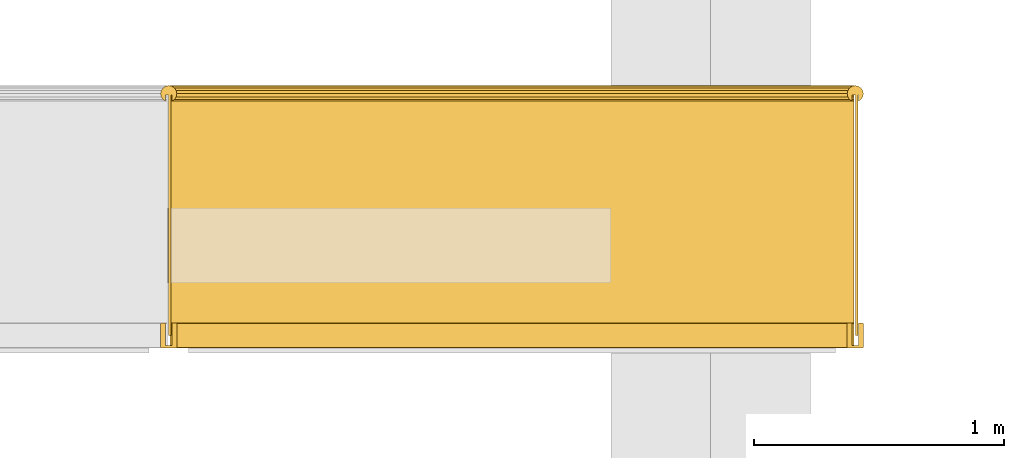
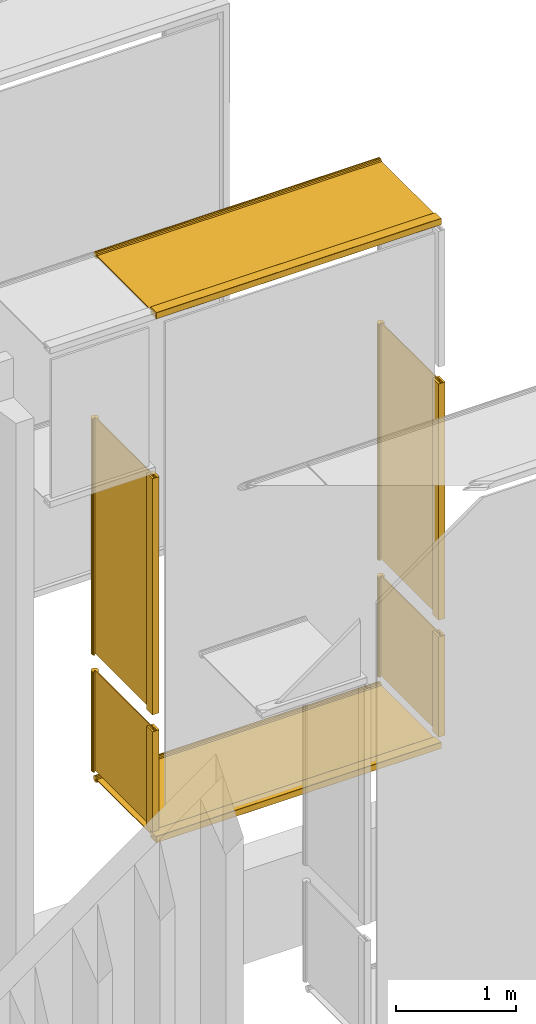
# One storey, part 9 of 15: 6 railings.
"""IFC2X3 building model written with IfcOpenShell, lengths in metres."""

from ifc_helpers import new_model, entity, si_unit, converted_unit, derived_unit, money_unit, direction, frame, origin_with_axes, place, context, subcontext, project, spatial, faceted_brep, material, type_object, element, save


model = new_model("IFC2X3")

# Units and contexts
model_context = context("Model", 3, precision=1e-05, world=origin_with_axes(), true_north=direction((0.0, 1.0)))
body_context = subcontext(model_context, "Body", "Model", "MODEL_VIEW", scale=1.0)
ifc_project = project(units=[si_unit("LENGTHUNIT", "METRE"), si_unit("AREAUNIT", "SQUARE_METRE"), si_unit("VOLUMEUNIT", "CUBIC_METRE"), si_unit("ABSORBEDDOSEUNIT", "GRAY"), si_unit("AMOUNTOFSUBSTANCEUNIT", "MOLE"), si_unit("DOSEEQUIVALENTUNIT", "SIEVERT"), si_unit("ELECTRICCAPACITANCEUNIT", "FARAD"), si_unit("ELECTRICCHARGEUNIT", "COULOMB"), si_unit("ELECTRICCONDUCTANCEUNIT", "SIEMENS"), si_unit("ELECTRICCURRENTUNIT", "AMPERE"), si_unit("ELECTRICRESISTANCEUNIT", "OHM"), si_unit("ELECTRICVOLTAGEUNIT", "VOLT"), si_unit("ENERGYUNIT", "JOULE"), si_unit("FORCEUNIT", "NEWTON"), si_unit("FREQUENCYUNIT", "HERTZ"), si_unit("ILLUMINANCEUNIT", "LUX"), si_unit("INDUCTANCEUNIT", "HENRY"), si_unit("LUMINOUSFLUXUNIT", "LUMEN"), si_unit("LUMINOUSINTENSITYUNIT", "CANDELA"), si_unit("MAGNETICFLUXDENSITYUNIT", "TESLA"), si_unit("MAGNETICFLUXUNIT", "WEBER"), si_unit("MASSUNIT", "GRAM"), converted_unit("PLANEANGLEUNIT", "degree", entity("IfcReal", 0.0174532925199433), si_unit("PLANEANGLEUNIT", "RADIAN"), dimensions=[0, 0, 0, 0, 0, 0, 0]), si_unit("POWERUNIT", "WATT"), si_unit("PRESSUREUNIT", "PASCAL"), si_unit("RADIOACTIVITYUNIT", "BECQUEREL"), si_unit("SOLIDANGLEUNIT", "STERADIAN"), si_unit("THERMODYNAMICTEMPERATUREUNIT", "KELVIN"), si_unit("TIMEUNIT", "SECOND"), derived_unit("ACCELERATIONUNIT", [(si_unit("LENGTHUNIT", "METRE"), 1), (si_unit("TIMEUNIT", "SECOND"), -2)]), derived_unit("ANGULARVELOCITYUNIT", [(converted_unit("PLANEANGLEUNIT", "degree", entity("IfcReal", 0.0174532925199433), si_unit("PLANEANGLEUNIT", "RADIAN"), dimensions=[0, 0, 0, 0, 0, 0, 0]), 1), (si_unit("TIMEUNIT", "SECOND"), -1)]), derived_unit("CURVATUREUNIT", [(converted_unit("PLANEANGLEUNIT", "degree", entity("IfcReal", 0.0174532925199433), si_unit("PLANEANGLEUNIT", "RADIAN"), dimensions=[0, 0, 0, 0, 0, 0, 0]), 1), (si_unit("LENGTHUNIT", "METRE"), -1)]), derived_unit("DYNAMICVISCOSITYUNIT", [(si_unit("PRESSUREUNIT", "PASCAL"), 1), (si_unit("TIMEUNIT", "SECOND"), 1)]), derived_unit("HEATFLUXDENSITYUNIT", [(si_unit("POWERUNIT", "WATT"), 1), (si_unit("LENGTHUNIT", "METRE"), -2)]), derived_unit("HEATINGVALUEUNIT", [(si_unit("ENERGYUNIT", "JOULE"), 1), (si_unit("MASSUNIT", "GRAM"), -1)]), derived_unit("INTEGERCOUNTRATEUNIT", [(si_unit("TIMEUNIT", "SECOND"), -1)]), derived_unit("IONCONCENTRATIONUNIT", [(si_unit("MASSUNIT", "GRAM"), 1), (si_unit("VOLUMEUNIT", "CUBIC_METRE"), -1)]), derived_unit("ISOTHERMALMOISTURECAPACITYUNIT", [(si_unit("VOLUMEUNIT", "CUBIC_METRE"), 1), (si_unit("MASSUNIT", "GRAM"), -1)]), derived_unit("KINEMATICVISCOSITYUNIT", [(si_unit("AREAUNIT", "SQUARE_METRE"), 1), (si_unit("TIMEUNIT", "SECOND"), -1)]), derived_unit("LINEARFORCEUNIT", [(si_unit("FORCEUNIT", "NEWTON"), 1), (si_unit("LENGTHUNIT", "METRE"), -1)]), derived_unit("LINEARMOMENTUNIT", [(si_unit("FORCEUNIT", "NEWTON"), 1), (si_unit("LENGTHUNIT", "METRE"), -1)]), derived_unit("LINEARSTIFFNESSUNIT", [(si_unit("FORCEUNIT", "NEWTON"), 1), (si_unit("LENGTHUNIT", "METRE"), -1)]), derived_unit("LINEARVELOCITYUNIT", [(si_unit("LENGTHUNIT", "METRE"), 1), (si_unit("TIMEUNIT", "SECOND"), -1)]), derived_unit("LUMINOUSINTENSITYDISTRIBUTIONUNIT", [(si_unit("LUMINOUSINTENSITYUNIT", "CANDELA"), 1), (si_unit("LUMINOUSFLUXUNIT", "LUMEN"), -1)]), derived_unit("MASSDENSITYUNIT", [(si_unit("MASSUNIT", "GRAM"), 1), (si_unit("VOLUMEUNIT", "CUBIC_METRE"), -1)]), derived_unit("MASSFLOWRATEUNIT", [(si_unit("MASSUNIT", "GRAM"), 1), (si_unit("TIMEUNIT", "SECOND"), -1)]), derived_unit("MASSPERLENGTHUNIT", [(si_unit("MASSUNIT", "GRAM"), 1), (si_unit("LENGTHUNIT", "METRE"), -1)]), derived_unit("MODULUSOFELASTICITYUNIT", [(si_unit("FORCEUNIT", "NEWTON"), 1), (si_unit("AREAUNIT", "SQUARE_METRE"), -1)]), derived_unit("MODULUSOFLINEARSUBGRADEREACTIONUNIT", [(si_unit("FORCEUNIT", "NEWTON"), 1), (si_unit("LENGTHUNIT", "METRE"), -2)]), derived_unit("MODULUSOFROTATIONALSUBGRADEREACTIONUNIT", [(si_unit("FORCEUNIT", "NEWTON"), 1), (si_unit("LENGTHUNIT", "METRE"), 1)]), derived_unit("MODULUSOFSUBGRADEREACTIONUNIT", [(si_unit("FORCEUNIT", "NEWTON"), 1), (si_unit("VOLUMEUNIT", "CUBIC_METRE"), -1)]), derived_unit("MOISTUREDIFFUSIVITYUNIT", [(si_unit("VOLUMEUNIT", "CUBIC_METRE"), 1), (si_unit("TIMEUNIT", "SECOND"), -1)]), derived_unit("MOLECULARWEIGHTUNIT", [(si_unit("MASSUNIT", "GRAM"), 1), (si_unit("AMOUNTOFSUBSTANCEUNIT", "MOLE"), -1)]), derived_unit("PLANARFORCEUNIT", [(si_unit("FORCEUNIT", "NEWTON"), 1), (si_unit("LENGTHUNIT", "METRE"), -2)]), derived_unit("ROTATIONALFREQUENCYUNIT", [(si_unit("TIMEUNIT", "SECOND"), -1)]), derived_unit("ROTATIONALMASSUNIT", [(si_unit("MASSUNIT", "GRAM"), 1), (si_unit("LENGTHUNIT", "METRE"), 2)]), derived_unit("ROTATIONALSTIFFNESSUNIT", [(si_unit("FORCEUNIT", "NEWTON"), 1), (si_unit("LENGTHUNIT", "METRE"), 1), (converted_unit("PLANEANGLEUNIT", "degree", entity("IfcReal", 0.0174532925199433), si_unit("PLANEANGLEUNIT", "RADIAN"), dimensions=[0, 0, 0, 0, 0, 0, 0]), -1)]), derived_unit("SECTIONAREAINTEGRALUNIT", [(si_unit("LENGTHUNIT", "METRE"), 5)]), derived_unit("SECTIONMODULUSUNIT", [(si_unit("LENGTHUNIT", "METRE"), 3)]), derived_unit("SHEARMODULUSUNIT", [(si_unit("FORCEUNIT", "NEWTON"), 1), (si_unit("AREAUNIT", "SQUARE_METRE"), -1)]), derived_unit("SOUNDPOWERUNIT", [(si_unit("ENERGYUNIT", "JOULE"), 1), (si_unit("TIMEUNIT", "SECOND"), -1)]), derived_unit("SPECIFICHEATCAPACITYUNIT", [(si_unit("FORCEUNIT", "NEWTON"), 1), (si_unit("MASSUNIT", "GRAM"), -1), (si_unit("THERMODYNAMICTEMPERATUREUNIT", "KELVIN"), -1)]), derived_unit("TEMPERATUREGRADIENTUNIT", [(si_unit("THERMODYNAMICTEMPERATUREUNIT", "KELVIN"), 1), (si_unit("LENGTHUNIT", "METRE"), -1)]), derived_unit("THERMALADMITTANCEUNIT", [(si_unit("POWERUNIT", "WATT"), 1), (si_unit("AREAUNIT", "SQUARE_METRE"), -1), (si_unit("THERMODYNAMICTEMPERATUREUNIT", "KELVIN"), -1)]), derived_unit("THERMALCONDUCTANCEUNIT", [(si_unit("POWERUNIT", "WATT"), 1), (si_unit("LENGTHUNIT", "METRE"), -1), (si_unit("THERMODYNAMICTEMPERATUREUNIT", "KELVIN"), -1)]), derived_unit("THERMALEXPANSIONCOEFFICIENTUNIT", [(si_unit("THERMODYNAMICTEMPERATUREUNIT", "KELVIN"), -1)]), derived_unit("THERMALRESISTANCEUNIT", [(si_unit("AREAUNIT", "SQUARE_METRE"), 1), (si_unit("POWERUNIT", "WATT"), -1)]), derived_unit("THERMALTRANSMITTANCEUNIT", [(si_unit("POWERUNIT", "WATT"), 1), (si_unit("AREAUNIT", "SQUARE_METRE"), -1), (si_unit("THERMODYNAMICTEMPERATUREUNIT", "KELVIN"), -1)]), derived_unit("TORQUEUNIT", [(si_unit("FORCEUNIT", "NEWTON"), 1), (si_unit("LENGTHUNIT", "METRE"), 1)]), derived_unit("VAPORPERMEABILITYUNIT", [(si_unit("MASSUNIT", "GRAM"), 1), (si_unit("TIMEUNIT", "SECOND"), -1)]), derived_unit("VOLUMETRICFLOWRATEUNIT", [(si_unit("VOLUMEUNIT", "CUBIC_METRE"), 1), (si_unit("TIMEUNIT", "SECOND"), -1)]), derived_unit("WARPINGCONSTANTUNIT", [(si_unit("LENGTHUNIT", "METRE"), 6)]), derived_unit("WARPINGMOMENTUNIT", [(si_unit("FORCEUNIT", "NEWTON"), 1), (si_unit("LENGTHUNIT", "METRE"), 2)]), money_unit("GBP")], contexts=[model_context])

# Site, building, storey
site_placement = place(None, origin_with_axes())
site = spatial("IfcSite", under=ifc_project, at=site_placement, Name="Site", CompositionType="ELEMENT")
building_placement = place(site_placement, origin_with_axes())
building = spatial("IfcBuilding", under=site, at=building_placement, Name="Building01", CompositionType="ELEMENT")
storey_placement = place(building_placement, origin_with_axes())
storey = spatial("IfcBuildingStorey", under=building, at=storey_placement, Name="GF", CompositionType="ELEMENT", Elevation=0.0)

# Railings
ifc_material = material(Name="A_BSUK_Steel_Miscellaneous")
railing_type = type_object("IfcRailingType", Name="A-RailingGlassPanel-1050mm", PredefinedType="NOTDEFINED")
railing_1_placement = place(storey_placement, frame((15.921381, 8.587442, 21.090134), z_axis=(0.0, 1.0, 0.0), x_axis=(0.0, 0.0, 1.0)))
element("IfcRailing", 1, at=railing_1_placement, inside=storey, type_object=railing_type, material=ifc_material, Name="A-RailingGlassPanel-1050mm", ObjectType="A-RailingGlassPanel-1050mm", PredefinedType="HANDRAIL", context=body_context, shape_type="Brep", body=[
    faceted_brep([(-0.0125, 2.7366, 0.9875), (-0.0125, 0.0, 0.9875), (-0.023022, 0.0, 0.99456), (-0.023022, 2.7366, 0.99456), (-0.030045, 0.0, 1.005108), (-0.030045, 2.7366, 1.005108), (-0.0325, 0.0, 1.017539), (-0.0325, 2.7366, 1.017539), (-0.030015, 0.0, 1.029964), (-0.030015, 2.7366, 1.029964), (-0.022967, 0.0, 1.040495), (-0.022967, 2.7366, 1.040495), (-0.012428, 0.0, 1.04753), (-0.012428, 2.7366, 1.04753), (0.0, 0.0, 1.05), (0.0, 2.7366, 1.05), (0.012428, 0.0, 1.04753), (0.012428, 2.7366, 1.04753), (0.022967, 0.0, 1.040495), (0.022967, 2.7366, 1.040495), (0.030015, 0.0, 1.029964), (0.030015, 2.7366, 1.029964), (0.0325, 0.0, 1.017539), (0.0325, 2.7366, 1.017539), (0.030045, 0.0, 1.005108), (0.030045, 2.7366, 1.005108), (0.023022, 0.0, 0.99456), (0.023022, 2.7366, 0.99456), (0.0125, 0.0, 0.9875), (0.0125, 2.7366, 0.9875), (-0.0125, 2.7366, 1.0125), (-0.0125, 0.0, 1.0125), (0.0125, 2.7366, 1.0125), (0.0125, 0.0, 1.0125)], [[[0, 1, 2, 3]], [[3, 2, 4, 5]], [[5, 4, 6, 7]], [[7, 6, 8, 9]], [[9, 8, 10, 11]], [[11, 10, 12, 13]], [[13, 12, 14, 15]], [[15, 14, 16, 17]], [[17, 16, 18, 19]], [[19, 18, 20, 21]], [[21, 20, 22, 23]], [[23, 22, 24, 25]], [[25, 24, 26, 27]], [[27, 26, 28, 29]], [[0, 30, 31, 1]], [[30, 32, 33, 31]], [[32, 30, 0, 3, 5, 7, 9, 11, 13, 15, 17, 19, 21, 23, 25, 27, 29]], [[32, 29, 28, 33]], [[28, 26, 24, 22, 20, 18, 16, 14, 12, 10, 8, 6, 4, 2, 1, 31, 33]]]),
    faceted_brep([(-0.0295, 2.7366, 0.099925), (-0.0295, 0.0, 0.099925), (-0.0125, 0.0, 0.099925), (-0.0125, 2.7366, 0.099925), (-0.0325, 2.7366, 0.096925), (-0.0325, 0.0, 0.096925), (-0.032272, 0.0, 0.098073), (-0.032272, 2.7366, 0.098073), (-0.031621, 0.0, 0.099046), (-0.031621, 2.7366, 0.099046), (-0.030648, 0.0, 0.099697), (-0.030648, 2.7366, 0.099697), (-0.0325, 2.7366, 0.003), (-0.0325, 0.0, 0.003), (-0.0295, 2.7366, 0.0), (-0.030648, 2.7366, 0.000228), (-0.031621, 2.7366, 0.000879), (-0.032272, 2.7366, 0.001852), (-0.0125, 2.7366, 0.01), (0.0125, 2.7366, 0.01), (0.0125, 2.7366, 0.099925), (0.0295, 2.7366, 0.099925), (0.030648, 2.7366, 0.099697), (0.031621, 2.7366, 0.099046), (0.032272, 2.7366, 0.098073), (0.0325, 2.7366, 0.096925), (0.0325, 2.7366, 0.003), (0.032272, 2.7366, 0.001852), (0.031621, 2.7366, 0.000879), (0.030648, 2.7366, 0.000228), (0.0295, 2.7366, 0.0), (0.0295, 0.0, 0.0), (0.030648, 0.0, 0.000228), (0.031621, 0.0, 0.000879), (0.032272, 0.0, 0.001852), (0.0325, 0.0, 0.003), (0.0325, 0.0, 0.096925), (0.032272, 0.0, 0.098073), (0.031621, 0.0, 0.099046), (0.030648, 0.0, 0.099697), (0.0295, 0.0, 0.099925), (0.0125, 0.0, 0.099925), (0.0125, 0.0, 0.01), (-0.0125, 0.0, 0.01), (-0.032272, 0.0, 0.001852), (-0.031621, 0.0, 0.000879), (-0.030648, 0.0, 0.000228), (-0.0295, 0.0, 0.0)], [[[0, 1, 2, 3]], [[4, 5, 6, 7]], [[7, 6, 8, 9]], [[9, 8, 10, 11]], [[11, 10, 1, 0]], [[4, 12, 13, 5]], [[14, 15, 16, 17, 12, 4, 7, 9, 11, 0, 3, 18, 19, 20, 21, 22, 23, 24, 25, 26, 27, 28, 29, 30]], [[31, 32, 33, 34, 35, 36, 37, 38, 39, 40, 41, 42, 43, 2, 1, 10, 8, 6, 5, 13, 44, 45, 46, 47]], [[14, 47, 46, 15]], [[15, 46, 45, 16]], [[16, 45, 44, 17]], [[17, 44, 13, 12]], [[14, 30, 31, 47]], [[26, 35, 34, 27]], [[27, 34, 33, 28]], [[28, 33, 32, 29]], [[29, 32, 31, 30]], [[26, 25, 36, 35]], [[21, 40, 39, 22]], [[22, 39, 38, 23]], [[23, 38, 37, 24]], [[24, 37, 36, 25]], [[21, 20, 41, 40]], [[20, 19, 42, 41]], [[19, 18, 43, 42]], [[18, 3, 2, 43]]]),
    faceted_brep([(0.0, 0.0, 0.05), (0.0, 0.0, 1.025), (0.0, 2.7366, 1.025), (0.0, 2.7366, 0.05), (0.01, 2.7366, 0.05), (0.01, 2.7366, 1.025), (0.01, 0.0, 1.025), (0.01, 0.0, 0.05)], [[[0, 1, 2, 3]], [[4, 5, 6, 7]], [[0, 7, 6, 1]], [[1, 6, 5, 2]], [[2, 5, 4, 3]], [[3, 4, 7, 0]]]),
])
railing_2_placement = place(storey_placement, frame((18.663481, 8.587442, 22.199835), z_axis=(0.0, 1.0, 0.0), x_axis=(0.0, 0.0, 1.0)))
element("IfcRailing", 2, at=railing_2_placement, inside=storey, type_object=railing_type, material=ifc_material, Name="A-RailingGlassPanel-1050mm", ObjectType="A-RailingGlassPanel-1050mm", PredefinedType="HANDRAIL", context=body_context, shape_type="Brep", body=[
    faceted_brep([(-1.018201, -0.0125, 0.9875), (0.0, -0.0125, 0.9875), (0.0, -0.023022, 0.99456), (-1.018201, -0.023022, 0.99456), (0.0, -0.030045, 1.005108), (-1.018201, -0.030045, 1.005108), (0.0, -0.0325, 1.017539), (-1.018201, -0.0325, 1.017539), (0.0, -0.030015, 1.029964), (-1.018201, -0.030015, 1.029964), (0.0, -0.022967, 1.040495), (-1.018201, -0.022967, 1.040495), (0.0, -0.012428, 1.04753), (-1.018201, -0.012428, 1.04753), (0.0, 0.0, 1.05), (-1.018201, 0.0, 1.05), (0.0, 0.012428, 1.04753), (-1.018201, 0.012428, 1.04753), (0.0, 0.022967, 1.040495), (-1.018201, 0.022967, 1.040495), (0.0, 0.030015, 1.029964), (-1.018201, 0.030015, 1.029964), (0.0, 0.0325, 1.017539), (-1.018201, 0.0325, 1.017539), (0.0, 0.030045, 1.005108), (-1.018201, 0.030045, 1.005108), (0.0, 0.023022, 0.99456), (-1.018201, 0.023022, 0.99456), (0.0, 0.0125, 0.9875), (-1.018201, 0.0125, 0.9875), (-1.018201, -0.0125, 1.0125), (0.0, -0.0125, 1.0125), (-1.018201, 0.0125, 1.0125), (0.0, 0.0125, 1.0125)], [[[0, 1, 2, 3]], [[3, 2, 4, 5]], [[5, 4, 6, 7]], [[7, 6, 8, 9]], [[9, 8, 10, 11]], [[11, 10, 12, 13]], [[13, 12, 14, 15]], [[15, 14, 16, 17]], [[17, 16, 18, 19]], [[19, 18, 20, 21]], [[21, 20, 22, 23]], [[23, 22, 24, 25]], [[25, 24, 26, 27]], [[27, 26, 28, 29]], [[0, 30, 31, 1]], [[30, 32, 33, 31]], [[32, 30, 0, 3, 5, 7, 9, 11, 13, 15, 17, 19, 21, 23, 25, 27, 29]], [[32, 29, 28, 33]], [[28, 26, 24, 22, 20, 18, 16, 14, 12, 10, 8, 6, 4, 2, 1, 31, 33]]]),
    faceted_brep([(-1.018201, -0.0295, 0.099925), (0.0, -0.0295, 0.099925), (0.0, -0.0125, 0.099925), (-1.018201, -0.0125, 0.099925), (-1.018201, -0.0325, 0.096925), (0.0, -0.0325, 0.096925), (0.0, -0.032272, 0.098073), (-1.018201, -0.032272, 0.098073), (0.0, -0.031621, 0.099046), (-1.018201, -0.031621, 0.099046), (0.0, -0.030648, 0.099697), (-1.018201, -0.030648, 0.099697), (-1.018201, -0.0325, 0.003), (0.0, -0.0325, 0.003), (-1.018201, -0.0295, 0.0), (-1.018201, -0.030648, 0.000228), (-1.018201, -0.031621, 0.000879), (-1.018201, -0.032272, 0.001852), (-1.018201, -0.0125, 0.01), (-1.018201, 0.0125, 0.01), (-1.018201, 0.0125, 0.099925), (-1.018201, 0.0295, 0.099925), (-1.018201, 0.030648, 0.099697), (-1.018201, 0.031621, 0.099046), (-1.018201, 0.032272, 0.098073), (-1.018201, 0.0325, 0.096925), (-1.018201, 0.0325, 0.003), (-1.018201, 0.032272, 0.001852), (-1.018201, 0.031621, 0.000879), (-1.018201, 0.030648, 0.000228), (-1.018201, 0.0295, 0.0), (0.0, 0.0295, 0.0), (0.0, 0.030648, 0.000228), (0.0, 0.031621, 0.000879), (0.0, 0.032272, 0.001852), (0.0, 0.0325, 0.003), (0.0, 0.0325, 0.096925), (0.0, 0.032272, 0.098073), (0.0, 0.031621, 0.099046), (0.0, 0.030648, 0.099697), (0.0, 0.0295, 0.099925), (0.0, 0.0125, 0.099925), (0.0, 0.0125, 0.01), (0.0, -0.0125, 0.01), (0.0, -0.032272, 0.001852), (0.0, -0.031621, 0.000879), (0.0, -0.030648, 0.000228), (0.0, -0.0295, 0.0)], [[[0, 1, 2, 3]], [[4, 5, 6, 7]], [[7, 6, 8, 9]], [[9, 8, 10, 11]], [[11, 10, 1, 0]], [[4, 12, 13, 5]], [[14, 15, 16, 17, 12, 4, 7, 9, 11, 0, 3, 18, 19, 20, 21, 22, 23, 24, 25, 26, 27, 28, 29, 30]], [[31, 32, 33, 34, 35, 36, 37, 38, 39, 40, 41, 42, 43, 2, 1, 10, 8, 6, 5, 13, 44, 45, 46, 47]], [[14, 47, 46, 15]], [[15, 46, 45, 16]], [[16, 45, 44, 17]], [[17, 44, 13, 12]], [[14, 30, 31, 47]], [[26, 35, 34, 27]], [[27, 34, 33, 28]], [[28, 33, 32, 29]], [[29, 32, 31, 30]], [[26, 25, 36, 35]], [[21, 40, 39, 22]], [[22, 39, 38, 23]], [[23, 38, 37, 24]], [[24, 37, 36, 25]], [[21, 20, 41, 40]], [[20, 19, 42, 41]], [[19, 18, 43, 42]], [[18, 3, 2, 43]]]),
    faceted_brep([(0.0, 0.0, 0.05), (0.0, 0.0, 1.025), (-1.018201, 0.0, 1.025), (-1.018201, 0.0, 0.05), (-1.018201, 0.01, 0.05), (-1.018201, 0.01, 1.025), (0.0, 0.01, 1.025), (0.0, 0.01, 0.05)], [[[0, 1, 2, 3]], [[4, 5, 6, 7]], [[0, 7, 6, 1]], [[1, 6, 5, 2]], [[2, 5, 4, 3]], [[3, 4, 7, 0]]]),
])
railing_3_placement = place(storey_placement, frame((18.663481, 8.587442, 24.769835), z_axis=(0.0, 1.0, 0.0), x_axis=(0.0, 0.0, 1.0)))
element("IfcRailing", 3, at=railing_3_placement, inside=storey, type_object=railing_type, material=ifc_material, Name="A-RailingGlassPanel-1050mm", ObjectType="A-RailingGlassPanel-1050mm", PredefinedType="HANDRAIL", context=body_context, shape_type="Brep", body=[
    faceted_brep([(-2.3998, -0.0125, 0.9875), (0.0, -0.0125, 0.9875), (0.0, -0.023022, 0.99456), (-2.3998, -0.023022, 0.99456), (0.0, -0.030045, 1.005108), (-2.3998, -0.030045, 1.005108), (0.0, -0.0325, 1.017539), (-2.3998, -0.0325, 1.017539), (0.0, -0.030015, 1.029964), (-2.3998, -0.030015, 1.029964), (0.0, -0.022967, 1.040495), (-2.3998, -0.022967, 1.040495), (0.0, -0.012428, 1.04753), (-2.3998, -0.012428, 1.04753), (0.0, 0.0, 1.05), (-2.3998, 0.0, 1.05), (0.0, 0.012428, 1.04753), (-2.3998, 0.012428, 1.04753), (0.0, 0.022967, 1.040495), (-2.3998, 0.022967, 1.040495), (0.0, 0.030015, 1.029964), (-2.3998, 0.030015, 1.029964), (0.0, 0.0325, 1.017539), (-2.3998, 0.0325, 1.017539), (0.0, 0.030045, 1.005108), (-2.3998, 0.030045, 1.005108), (0.0, 0.023022, 0.99456), (-2.3998, 0.023022, 0.99456), (0.0, 0.0125, 0.9875), (-2.3998, 0.0125, 0.9875), (-2.3998, -0.0125, 1.0125), (0.0, -0.0125, 1.0125), (-2.3998, 0.0125, 1.0125), (0.0, 0.0125, 1.0125)], [[[0, 1, 2, 3]], [[3, 2, 4, 5]], [[5, 4, 6, 7]], [[7, 6, 8, 9]], [[9, 8, 10, 11]], [[11, 10, 12, 13]], [[13, 12, 14, 15]], [[15, 14, 16, 17]], [[17, 16, 18, 19]], [[19, 18, 20, 21]], [[21, 20, 22, 23]], [[23, 22, 24, 25]], [[25, 24, 26, 27]], [[27, 26, 28, 29]], [[0, 30, 31, 1]], [[30, 32, 33, 31]], [[32, 30, 0, 3, 5, 7, 9, 11, 13, 15, 17, 19, 21, 23, 25, 27, 29]], [[32, 29, 28, 33]], [[28, 26, 24, 22, 20, 18, 16, 14, 12, 10, 8, 6, 4, 2, 1, 31, 33]]]),
    faceted_brep([(-2.3998, -0.0295, 0.099925), (0.0, -0.0295, 0.099925), (0.0, -0.0125, 0.099925), (-2.3998, -0.0125, 0.099925), (-2.3998, -0.0325, 0.096925), (0.0, -0.0325, 0.096925), (0.0, -0.032272, 0.098073), (-2.3998, -0.032272, 0.098073), (0.0, -0.031621, 0.099046), (-2.3998, -0.031621, 0.099046), (0.0, -0.030648, 0.099697), (-2.3998, -0.030648, 0.099697), (-2.3998, -0.0325, 0.003), (0.0, -0.0325, 0.003), (-2.3998, -0.0295, 0.0), (-2.3998, -0.030648, 0.000228), (-2.3998, -0.031621, 0.000879), (-2.3998, -0.032272, 0.001852), (-2.3998, -0.0125, 0.01), (-2.3998, 0.0125, 0.01), (-2.3998, 0.0125, 0.099925), (-2.3998, 0.0295, 0.099925), (-2.3998, 0.030648, 0.099697), (-2.3998, 0.031621, 0.099046), (-2.3998, 0.032272, 0.098073), (-2.3998, 0.0325, 0.096925), (-2.3998, 0.0325, 0.003), (-2.3998, 0.032272, 0.001852), (-2.3998, 0.031621, 0.000879), (-2.3998, 0.030648, 0.000228), (-2.3998, 0.0295, 0.0), (0.0, 0.0295, 0.0), (0.0, 0.030648, 0.000228), (0.0, 0.031621, 0.000879), (0.0, 0.032272, 0.001852), (0.0, 0.0325, 0.003), (0.0, 0.0325, 0.096925), (0.0, 0.032272, 0.098073), (0.0, 0.031621, 0.099046), (0.0, 0.030648, 0.099697), (0.0, 0.0295, 0.099925), (0.0, 0.0125, 0.099925), (0.0, 0.0125, 0.01), (0.0, -0.0125, 0.01), (0.0, -0.032272, 0.001852), (0.0, -0.031621, 0.000879), (0.0, -0.030648, 0.000228), (0.0, -0.0295, 0.0)], [[[0, 1, 2, 3]], [[4, 5, 6, 7]], [[7, 6, 8, 9]], [[9, 8, 10, 11]], [[11, 10, 1, 0]], [[4, 12, 13, 5]], [[14, 15, 16, 17, 12, 4, 7, 9, 11, 0, 3, 18, 19, 20, 21, 22, 23, 24, 25, 26, 27, 28, 29, 30]], [[31, 32, 33, 34, 35, 36, 37, 38, 39, 40, 41, 42, 43, 2, 1, 10, 8, 6, 5, 13, 44, 45, 46, 47]], [[14, 47, 46, 15]], [[15, 46, 45, 16]], [[16, 45, 44, 17]], [[17, 44, 13, 12]], [[14, 30, 31, 47]], [[26, 35, 34, 27]], [[27, 34, 33, 28]], [[28, 33, 32, 29]], [[29, 32, 31, 30]], [[26, 25, 36, 35]], [[21, 40, 39, 22]], [[22, 39, 38, 23]], [[23, 38, 37, 24]], [[24, 37, 36, 25]], [[21, 20, 41, 40]], [[20, 19, 42, 41]], [[19, 18, 43, 42]], [[18, 3, 2, 43]]]),
    faceted_brep([(0.0, 0.0, 0.05), (0.0, 0.0, 1.025), (-2.3998, 0.0, 1.025), (-2.3998, 0.0, 0.05), (-2.3998, 0.01, 0.05), (-2.3998, 0.01, 1.025), (0.0, 0.01, 1.025), (0.0, 0.01, 0.05)], [[[0, 1, 2, 3]], [[4, 5, 6, 7]], [[0, 7, 6, 1]], [[1, 6, 5, 2]], [[2, 5, 4, 3]], [[3, 4, 7, 0]]]),
])
railing_4_placement = place(storey_placement, frame((15.921381, 8.587442, 26.411335), z_axis=(0.0, 1.0, 0.0), x_axis=(0.0, 0.0, 1.0)))
element("IfcRailing", 4, at=railing_4_placement, inside=storey, type_object=railing_type, material=ifc_material, Name="A-RailingGlassPanel-1050mm", ObjectType="A-RailingGlassPanel-1050mm", PredefinedType="HANDRAIL", context=body_context, shape_type="Brep", body=[
    faceted_brep([(-0.0125, 2.7366, 0.9875), (-0.0125, 0.0, 0.9875), (-0.023022, 0.0, 0.99456), (-0.023022, 2.7366, 0.99456), (-0.030045, 0.0, 1.005108), (-0.030045, 2.7366, 1.005108), (-0.0325, 0.0, 1.017539), (-0.0325, 2.7366, 1.017539), (-0.030015, 0.0, 1.029964), (-0.030015, 2.7366, 1.029964), (-0.022967, 0.0, 1.040495), (-0.022967, 2.7366, 1.040495), (-0.012428, 0.0, 1.04753), (-0.012428, 2.7366, 1.04753), (0.0, 0.0, 1.05), (0.0, 2.7366, 1.05), (0.012428, 0.0, 1.04753), (0.012428, 2.7366, 1.04753), (0.022967, 0.0, 1.040495), (0.022967, 2.7366, 1.040495), (0.030015, 0.0, 1.029964), (0.030015, 2.7366, 1.029964), (0.0325, 0.0, 1.017539), (0.0325, 2.7366, 1.017539), (0.030045, 0.0, 1.005108), (0.030045, 2.7366, 1.005108), (0.023022, 0.0, 0.99456), (0.023022, 2.7366, 0.99456), (0.0125, 0.0, 0.9875), (0.0125, 2.7366, 0.9875), (-0.0125, 2.7366, 1.0125), (-0.0125, 0.0, 1.0125), (0.0125, 2.7366, 1.0125), (0.0125, 0.0, 1.0125)], [[[0, 1, 2, 3]], [[3, 2, 4, 5]], [[5, 4, 6, 7]], [[7, 6, 8, 9]], [[9, 8, 10, 11]], [[11, 10, 12, 13]], [[13, 12, 14, 15]], [[15, 14, 16, 17]], [[17, 16, 18, 19]], [[19, 18, 20, 21]], [[21, 20, 22, 23]], [[23, 22, 24, 25]], [[25, 24, 26, 27]], [[27, 26, 28, 29]], [[0, 30, 31, 1]], [[30, 32, 33, 31]], [[32, 30, 0, 3, 5, 7, 9, 11, 13, 15, 17, 19, 21, 23, 25, 27, 29]], [[32, 29, 28, 33]], [[28, 26, 24, 22, 20, 18, 16, 14, 12, 10, 8, 6, 4, 2, 1, 31, 33]]]),
    faceted_brep([(-0.0295, 2.7366, 0.099925), (-0.0295, 0.0, 0.099925), (-0.0125, 0.0, 0.099925), (-0.0125, 2.7366, 0.099925), (-0.0325, 2.7366, 0.096925), (-0.0325, 0.0, 0.096925), (-0.032272, 0.0, 0.098073), (-0.032272, 2.7366, 0.098073), (-0.031621, 0.0, 0.099046), (-0.031621, 2.7366, 0.099046), (-0.030648, 0.0, 0.099697), (-0.030648, 2.7366, 0.099697), (-0.0325, 2.7366, 0.003), (-0.0325, 0.0, 0.003), (-0.0295, 2.7366, 0.0), (-0.030648, 2.7366, 0.000228), (-0.031621, 2.7366, 0.000879), (-0.032272, 2.7366, 0.001852), (-0.0125, 2.7366, 0.01), (0.0125, 2.7366, 0.01), (0.0125, 2.7366, 0.099925), (0.0295, 2.7366, 0.099925), (0.030648, 2.7366, 0.099697), (0.031621, 2.7366, 0.099046), (0.032272, 2.7366, 0.098073), (0.0325, 2.7366, 0.096925), (0.0325, 2.7366, 0.003), (0.032272, 2.7366, 0.001852), (0.031621, 2.7366, 0.000879), (0.030648, 2.7366, 0.000228), (0.0295, 2.7366, 0.0), (0.0295, 0.0, 0.0), (0.030648, 0.0, 0.000228), (0.031621, 0.0, 0.000879), (0.032272, 0.0, 0.001852), (0.0325, 0.0, 0.003), (0.0325, 0.0, 0.096925), (0.032272, 0.0, 0.098073), (0.031621, 0.0, 0.099046), (0.030648, 0.0, 0.099697), (0.0295, 0.0, 0.099925), (0.0125, 0.0, 0.099925), (0.0125, 0.0, 0.01), (-0.0125, 0.0, 0.01), (-0.032272, 0.0, 0.001852), (-0.031621, 0.0, 0.000879), (-0.030648, 0.0, 0.000228), (-0.0295, 0.0, 0.0)], [[[0, 1, 2, 3]], [[4, 5, 6, 7]], [[7, 6, 8, 9]], [[9, 8, 10, 11]], [[11, 10, 1, 0]], [[4, 12, 13, 5]], [[14, 15, 16, 17, 12, 4, 7, 9, 11, 0, 3, 18, 19, 20, 21, 22, 23, 24, 25, 26, 27, 28, 29, 30]], [[31, 32, 33, 34, 35, 36, 37, 38, 39, 40, 41, 42, 43, 2, 1, 10, 8, 6, 5, 13, 44, 45, 46, 47]], [[14, 47, 46, 15]], [[15, 46, 45, 16]], [[16, 45, 44, 17]], [[17, 44, 13, 12]], [[14, 30, 31, 47]], [[26, 35, 34, 27]], [[27, 34, 33, 28]], [[28, 33, 32, 29]], [[29, 32, 31, 30]], [[26, 25, 36, 35]], [[21, 40, 39, 22]], [[22, 39, 38, 23]], [[23, 38, 37, 24]], [[24, 37, 36, 25]], [[21, 20, 41, 40]], [[20, 19, 42, 41]], [[19, 18, 43, 42]], [[18, 3, 2, 43]]]),
    faceted_brep([(0.0, 0.0, 0.05), (0.0, 0.0, 1.025), (0.0, 2.7366, 1.025), (0.0, 2.7366, 0.05), (0.01, 2.7366, 0.05), (0.01, 2.7366, 1.025), (0.01, 0.0, 1.025), (0.01, 0.0, 0.05)], [[[0, 1, 2, 3]], [[4, 5, 6, 7]], [[0, 7, 6, 1]], [[1, 6, 5, 2]], [[2, 5, 4, 3]], [[3, 4, 7, 0]]]),
])
railing_5_placement = place(storey_placement, frame((15.915881, 8.587442, 24.769835), z_axis=(0.0, 1.0, 0.0), x_axis=(0.0, 0.0, 1.0)))
element("IfcRailing", 5, at=railing_5_placement, inside=storey, type_object=railing_type, material=ifc_material, Name="A-RailingGlassPanel-1050mm", ObjectType="A-RailingGlassPanel-1050mm", PredefinedType="HANDRAIL", context=body_context, shape_type="Brep", body=[
    faceted_brep([(-2.3998, -0.0125, 0.9875), (0.0, -0.0125, 0.9875), (0.0, -0.023022, 0.99456), (-2.3998, -0.023022, 0.99456), (0.0, -0.030045, 1.005108), (-2.3998, -0.030045, 1.005108), (0.0, -0.0325, 1.017539), (-2.3998, -0.0325, 1.017539), (0.0, -0.030015, 1.029964), (-2.3998, -0.030015, 1.029964), (0.0, -0.022967, 1.040495), (-2.3998, -0.022967, 1.040495), (0.0, -0.012428, 1.04753), (-2.3998, -0.012428, 1.04753), (0.0, 0.0, 1.05), (-2.3998, 0.0, 1.05), (0.0, 0.012428, 1.04753), (-2.3998, 0.012428, 1.04753), (0.0, 0.022967, 1.040495), (-2.3998, 0.022967, 1.040495), (0.0, 0.030015, 1.029964), (-2.3998, 0.030015, 1.029964), (0.0, 0.0325, 1.017539), (-2.3998, 0.0325, 1.017539), (0.0, 0.030045, 1.005108), (-2.3998, 0.030045, 1.005108), (0.0, 0.023022, 0.99456), (-2.3998, 0.023022, 0.99456), (0.0, 0.0125, 0.9875), (-2.3998, 0.0125, 0.9875), (-2.3998, -0.0125, 1.0125), (0.0, -0.0125, 1.0125), (-2.3998, 0.0125, 1.0125), (0.0, 0.0125, 1.0125)], [[[0, 1, 2, 3]], [[3, 2, 4, 5]], [[5, 4, 6, 7]], [[7, 6, 8, 9]], [[9, 8, 10, 11]], [[11, 10, 12, 13]], [[13, 12, 14, 15]], [[15, 14, 16, 17]], [[17, 16, 18, 19]], [[19, 18, 20, 21]], [[21, 20, 22, 23]], [[23, 22, 24, 25]], [[25, 24, 26, 27]], [[27, 26, 28, 29]], [[0, 30, 31, 1]], [[30, 32, 33, 31]], [[32, 30, 0, 3, 5, 7, 9, 11, 13, 15, 17, 19, 21, 23, 25, 27, 29]], [[32, 29, 28, 33]], [[28, 26, 24, 22, 20, 18, 16, 14, 12, 10, 8, 6, 4, 2, 1, 31, 33]]]),
    faceted_brep([(-2.3998, -0.0295, 0.099925), (0.0, -0.0295, 0.099925), (0.0, -0.0125, 0.099925), (-2.3998, -0.0125, 0.099925), (-2.3998, -0.0325, 0.096925), (0.0, -0.0325, 0.096925), (0.0, -0.032272, 0.098073), (-2.3998, -0.032272, 0.098073), (0.0, -0.031621, 0.099046), (-2.3998, -0.031621, 0.099046), (0.0, -0.030648, 0.099697), (-2.3998, -0.030648, 0.099697), (-2.3998, -0.0325, 0.003), (0.0, -0.0325, 0.003), (-2.3998, -0.0295, 0.0), (-2.3998, -0.030648, 0.000228), (-2.3998, -0.031621, 0.000879), (-2.3998, -0.032272, 0.001852), (-2.3998, -0.0125, 0.01), (-2.3998, 0.0125, 0.01), (-2.3998, 0.0125, 0.099925), (-2.3998, 0.0295, 0.099925), (-2.3998, 0.030648, 0.099697), (-2.3998, 0.031621, 0.099046), (-2.3998, 0.032272, 0.098073), (-2.3998, 0.0325, 0.096925), (-2.3998, 0.0325, 0.003), (-2.3998, 0.032272, 0.001852), (-2.3998, 0.031621, 0.000879), (-2.3998, 0.030648, 0.000228), (-2.3998, 0.0295, 0.0), (0.0, 0.0295, 0.0), (0.0, 0.030648, 0.000228), (0.0, 0.031621, 0.000879), (0.0, 0.032272, 0.001852), (0.0, 0.0325, 0.003), (0.0, 0.0325, 0.096925), (0.0, 0.032272, 0.098073), (0.0, 0.031621, 0.099046), (0.0, 0.030648, 0.099697), (0.0, 0.0295, 0.099925), (0.0, 0.0125, 0.099925), (0.0, 0.0125, 0.01), (0.0, -0.0125, 0.01), (0.0, -0.032272, 0.001852), (0.0, -0.031621, 0.000879), (0.0, -0.030648, 0.000228), (0.0, -0.0295, 0.0)], [[[0, 1, 2, 3]], [[4, 5, 6, 7]], [[7, 6, 8, 9]], [[9, 8, 10, 11]], [[11, 10, 1, 0]], [[4, 12, 13, 5]], [[14, 15, 16, 17, 12, 4, 7, 9, 11, 0, 3, 18, 19, 20, 21, 22, 23, 24, 25, 26, 27, 28, 29, 30]], [[31, 32, 33, 34, 35, 36, 37, 38, 39, 40, 41, 42, 43, 2, 1, 10, 8, 6, 5, 13, 44, 45, 46, 47]], [[14, 47, 46, 15]], [[15, 46, 45, 16]], [[16, 45, 44, 17]], [[17, 44, 13, 12]], [[14, 30, 31, 47]], [[26, 35, 34, 27]], [[27, 34, 33, 28]], [[28, 33, 32, 29]], [[29, 32, 31, 30]], [[26, 25, 36, 35]], [[21, 40, 39, 22]], [[22, 39, 38, 23]], [[23, 38, 37, 24]], [[24, 37, 36, 25]], [[21, 20, 41, 40]], [[20, 19, 42, 41]], [[19, 18, 43, 42]], [[18, 3, 2, 43]]]),
    faceted_brep([(0.0, 0.0, 0.05), (0.0, 0.0, 1.025), (-2.3998, 0.0, 1.025), (-2.3998, 0.0, 0.05), (-2.3998, 0.01, 0.05), (-2.3998, 0.01, 1.025), (0.0, 0.01, 1.025), (0.0, 0.01, 0.05)], [[[0, 1, 2, 3]], [[4, 5, 6, 7]], [[0, 7, 6, 1]], [[1, 6, 5, 2]], [[2, 5, 4, 3]], [[3, 4, 7, 0]]]),
])
railing_6_placement = place(storey_placement, frame((15.915881, 8.587442, 22.199835), z_axis=(0.0, 1.0, 0.0), x_axis=(0.0, 0.0, 1.0)))
element("IfcRailing", 6, at=railing_6_placement, inside=storey, type_object=railing_type, material=ifc_material, Name="A-RailingGlassPanel-1050mm", ObjectType="A-RailingGlassPanel-1050mm", PredefinedType="HANDRAIL", context=body_context, shape_type="Brep", body=[
    faceted_brep([(-1.018201, -0.0125, 0.9875), (0.0, -0.0125, 0.9875), (0.0, -0.023022, 0.99456), (-1.018201, -0.023022, 0.99456), (0.0, -0.030045, 1.005108), (-1.018201, -0.030045, 1.005108), (0.0, -0.0325, 1.017539), (-1.018201, -0.0325, 1.017539), (0.0, -0.030015, 1.029964), (-1.018201, -0.030015, 1.029964), (0.0, -0.022967, 1.040495), (-1.018201, -0.022967, 1.040495), (0.0, -0.012428, 1.04753), (-1.018201, -0.012428, 1.04753), (0.0, 0.0, 1.05), (-1.018201, 0.0, 1.05), (0.0, 0.012428, 1.04753), (-1.018201, 0.012428, 1.04753), (0.0, 0.022967, 1.040495), (-1.018201, 0.022967, 1.040495), (0.0, 0.030015, 1.029964), (-1.018201, 0.030015, 1.029964), (0.0, 0.0325, 1.017539), (-1.018201, 0.0325, 1.017539), (0.0, 0.030045, 1.005108), (-1.018201, 0.030045, 1.005108), (0.0, 0.023022, 0.99456), (-1.018201, 0.023022, 0.99456), (0.0, 0.0125, 0.9875), (-1.018201, 0.0125, 0.9875), (-1.018201, -0.0125, 1.0125), (0.0, -0.0125, 1.0125), (-1.018201, 0.0125, 1.0125), (0.0, 0.0125, 1.0125)], [[[0, 1, 2, 3]], [[3, 2, 4, 5]], [[5, 4, 6, 7]], [[7, 6, 8, 9]], [[9, 8, 10, 11]], [[11, 10, 12, 13]], [[13, 12, 14, 15]], [[15, 14, 16, 17]], [[17, 16, 18, 19]], [[19, 18, 20, 21]], [[21, 20, 22, 23]], [[23, 22, 24, 25]], [[25, 24, 26, 27]], [[27, 26, 28, 29]], [[0, 30, 31, 1]], [[30, 32, 33, 31]], [[32, 30, 0, 3, 5, 7, 9, 11, 13, 15, 17, 19, 21, 23, 25, 27, 29]], [[32, 29, 28, 33]], [[28, 26, 24, 22, 20, 18, 16, 14, 12, 10, 8, 6, 4, 2, 1, 31, 33]]]),
    faceted_brep([(-1.018201, -0.0295, 0.099925), (0.0, -0.0295, 0.099925), (0.0, -0.0125, 0.099925), (-1.018201, -0.0125, 0.099925), (-1.018201, -0.0325, 0.096925), (0.0, -0.0325, 0.096925), (0.0, -0.032272, 0.098073), (-1.018201, -0.032272, 0.098073), (0.0, -0.031621, 0.099046), (-1.018201, -0.031621, 0.099046), (0.0, -0.030648, 0.099697), (-1.018201, -0.030648, 0.099697), (-1.018201, -0.0325, 0.003), (0.0, -0.0325, 0.003), (-1.018201, -0.0295, 0.0), (-1.018201, -0.030648, 0.000228), (-1.018201, -0.031621, 0.000879), (-1.018201, -0.032272, 0.001852), (-1.018201, -0.0125, 0.01), (-1.018201, 0.0125, 0.01), (-1.018201, 0.0125, 0.099925), (-1.018201, 0.0295, 0.099925), (-1.018201, 0.030648, 0.099697), (-1.018201, 0.031621, 0.099046), (-1.018201, 0.032272, 0.098073), (-1.018201, 0.0325, 0.096925), (-1.018201, 0.0325, 0.003), (-1.018201, 0.032272, 0.001852), (-1.018201, 0.031621, 0.000879), (-1.018201, 0.030648, 0.000228), (-1.018201, 0.0295, 0.0), (0.0, 0.0295, 0.0), (0.0, 0.030648, 0.000228), (0.0, 0.031621, 0.000879), (0.0, 0.032272, 0.001852), (0.0, 0.0325, 0.003), (0.0, 0.0325, 0.096925), (0.0, 0.032272, 0.098073), (0.0, 0.031621, 0.099046), (0.0, 0.030648, 0.099697), (0.0, 0.0295, 0.099925), (0.0, 0.0125, 0.099925), (0.0, 0.0125, 0.01), (0.0, -0.0125, 0.01), (0.0, -0.032272, 0.001852), (0.0, -0.031621, 0.000879), (0.0, -0.030648, 0.000228), (0.0, -0.0295, 0.0)], [[[0, 1, 2, 3]], [[4, 5, 6, 7]], [[7, 6, 8, 9]], [[9, 8, 10, 11]], [[11, 10, 1, 0]], [[4, 12, 13, 5]], [[14, 15, 16, 17, 12, 4, 7, 9, 11, 0, 3, 18, 19, 20, 21, 22, 23, 24, 25, 26, 27, 28, 29, 30]], [[31, 32, 33, 34, 35, 36, 37, 38, 39, 40, 41, 42, 43, 2, 1, 10, 8, 6, 5, 13, 44, 45, 46, 47]], [[14, 47, 46, 15]], [[15, 46, 45, 16]], [[16, 45, 44, 17]], [[17, 44, 13, 12]], [[14, 30, 31, 47]], [[26, 35, 34, 27]], [[27, 34, 33, 28]], [[28, 33, 32, 29]], [[29, 32, 31, 30]], [[26, 25, 36, 35]], [[21, 40, 39, 22]], [[22, 39, 38, 23]], [[23, 38, 37, 24]], [[24, 37, 36, 25]], [[21, 20, 41, 40]], [[20, 19, 42, 41]], [[19, 18, 43, 42]], [[18, 3, 2, 43]]]),
    faceted_brep([(0.0, 0.0, 0.05), (0.0, 0.0, 1.025), (-1.018201, 0.0, 1.025), (-1.018201, 0.0, 0.05), (-1.018201, 0.01, 0.05), (-1.018201, 0.01, 1.025), (0.0, 0.01, 1.025), (0.0, 0.01, 0.05)], [[[0, 1, 2, 3]], [[4, 5, 6, 7]], [[0, 7, 6, 1]], [[1, 6, 5, 2]], [[2, 5, 4, 3]], [[3, 4, 7, 0]]]),
])

save(model, "model.ifc")
